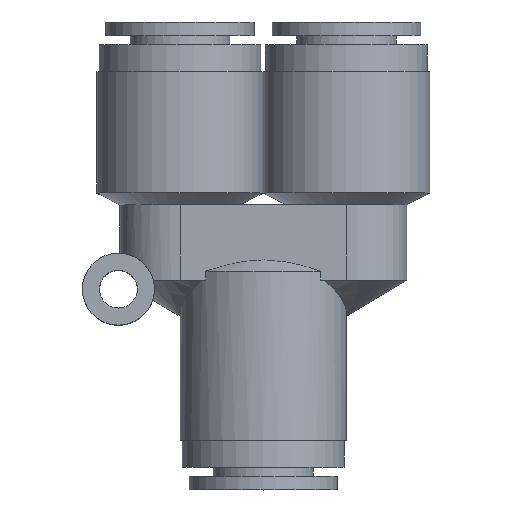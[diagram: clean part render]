
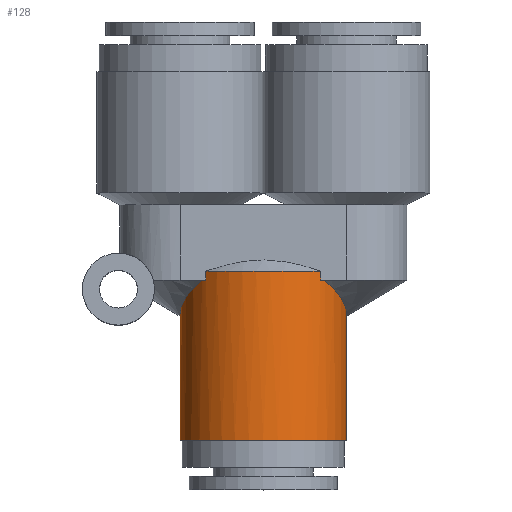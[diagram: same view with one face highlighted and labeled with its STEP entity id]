
A CAD part, top view. The second image highlights one B-rep face of the part: STEP entity #128.
In plain terms, the highlighted cylindrical face has radius 9.25 mm (diameter 18.5 mm), a partial arc.
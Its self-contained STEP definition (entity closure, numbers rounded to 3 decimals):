
#128 = ADVANCED_FACE( '', ( #260 ), #261, .T. );
#260 = FACE_OUTER_BOUND( '', #418, .T. );
#261 = CYLINDRICAL_SURFACE( '', #419, 9.25 );
#418 = EDGE_LOOP( '', ( #854, #855, #856, #857, #858, #859, #860, #861, #862, #863 ) );
#419 = AXIS2_PLACEMENT_3D( '', #864, #865, #866 );
#854 = ORIENTED_EDGE( '', *, *, #1032, .T. );
#855 = ORIENTED_EDGE( '', *, *, #1134, .F. );
#856 = ORIENTED_EDGE( '', *, *, #1039, .T. );
#857 = ORIENTED_EDGE( '', *, *, #1125, .F. );
#858 = ORIENTED_EDGE( '', *, *, #1119, .T. );
#859 = ORIENTED_EDGE( '', *, *, #1112, .T. );
#860 = ORIENTED_EDGE( '', *, *, #1135, .T. );
#861 = ORIENTED_EDGE( '', *, *, #1110, .T. );
#862 = ORIENTED_EDGE( '', *, *, #1117, .T. );
#863 = ORIENTED_EDGE( '', *, *, #1136, .F. );
#864 = CARTESIAN_POINT( '', ( 0., 14.9, 0. ) );
#865 = DIRECTION( '', ( 0., 1., 0. ) );
#866 = DIRECTION( '', ( -1., 0., 0. ) );
#1032 = EDGE_CURVE( '', #1191, #1226, #1227, .T. );
#1039 = EDGE_CURVE( '', #1240, #1238, #1241, .T. );
#1110 = EDGE_CURVE( '', #1359, #1360, #1361, .T. );
#1112 = EDGE_CURVE( '', #1364, #1362, #1365, .T. );
#1117 = EDGE_CURVE( '', #1360, #1370, #1372, .T. );
#1119 = EDGE_CURVE( '', #1373, #1364, #1375, .T. );
#1125 = EDGE_CURVE( '', #1373, #1238, #1381, .T. );
#1134 = EDGE_CURVE( '', #1240, #1226, #1390, .T. );
#1135 = EDGE_CURVE( '', #1362, #1359, #1391, .T. );
#1136 = EDGE_CURVE( '', #1191, #1370, #1392, .T. );
#1191 = VERTEX_POINT( '', #1457 );
#1226 = VERTEX_POINT( '', #1558 );
#1227 = LINE( '', #1559, #1560 );
#1238 = VERTEX_POINT( '', #1573 );
#1240 = VERTEX_POINT( '', #1584 );
#1241 = LINE( '', #1585, #1586 );
#1359 = VERTEX_POINT( '', #1875 );
#1360 = VERTEX_POINT( '', #1876 );
#1361 = LINE( '', #1877, #1878 );
#1362 = VERTEX_POINT( '', #1879 );
#1364 = VERTEX_POINT( '', #1890 );
#1365 = LINE( '', #1891, #1892 );
#1370 = VERTEX_POINT( '', #1900 );
#1372 = CIRCLE( '', #1902, 9.25 );
#1373 = VERTEX_POINT( '', #1903 );
#1375 = CIRCLE( '', #1905, 9.25 );
#1381 = B_SPLINE_CURVE_WITH_KNOTS( '', 3, ( #1922, #1923, #1924, #1925, #1926, #1927, #1928, #1929, #1930, #1931 ), .UNSPECIFIED., .F., .F., ( 4, 2, 2, 2, 4 ), ( 2.045, 2.41, 4.819, 7.229, 9.639 ), .UNSPECIFIED. );
#1390 = CIRCLE( '', #1940, 9.25 );
#1391 = CIRCLE( '', #1941, 9.25 );
#1392 = B_SPLINE_CURVE_WITH_KNOTS( '', 3, ( #1942, #1943, #1944, #1945, #1946, #1947, #1948, #1949, #1950, #1951 ), .UNSPECIFIED., .F., .F., ( 4, 2, 2, 2, 4 ), ( 0., 2.41, 4.819, 7.229, 7.594 ), .UNSPECIFIED. );
#1457 = CARTESIAN_POINT( '', ( -9.25, 19.3, 0. ) );
#1558 = CARTESIAN_POINT( '', ( -9.25, 5.5, 0. ) );
#1559 = CARTESIAN_POINT( '', ( -9.25, 14.9, 0. ) );
#1560 = VECTOR( '', #2037, 1. );
#1573 = CARTESIAN_POINT( '', ( 9.25, 19.3, 0. ) );
#1584 = CARTESIAN_POINT( '', ( 9.25, 5.5, 0. ) );
#1585 = CARTESIAN_POINT( '', ( 9.25, 14.9, 0. ) );
#1586 = VECTOR( '', #2049, 1. );
#1875 = CARTESIAN_POINT( '', ( -6.377, 24.3, 6.7 ) );
#1876 = CARTESIAN_POINT( '', ( -6.377, 23.3, 6.7 ) );
#1877 = CARTESIAN_POINT( '', ( -6.377, 23.8, 6.7 ) );
#1878 = VECTOR( '', #2190, 1. );
#1879 = CARTESIAN_POINT( '', ( 6.377, 24.3, 6.7 ) );
#1890 = CARTESIAN_POINT( '', ( 6.377, 23.3, 6.7 ) );
#1891 = CARTESIAN_POINT( '', ( 6.377, 23.8, 6.7 ) );
#1892 = VECTOR( '', #2191, 1. );
#1900 = CARTESIAN_POINT( '', ( -6.824, 23.3, 6.245 ) );
#1902 = AXIS2_PLACEMENT_3D( '', #2198, #2199, #2200 );
#1903 = CARTESIAN_POINT( '', ( 6.824, 23.3, 6.245 ) );
#1905 = AXIS2_PLACEMENT_3D( '', #2204, #2205, #2206 );
#1922 = CARTESIAN_POINT( '', ( 6.824, 23.3, 6.245 ) );
#1923 = CARTESIAN_POINT( '', ( 6.898, 23.238, 6.164 ) );
#1924 = CARTESIAN_POINT( '', ( 6.971, 23.177, 6.081 ) );
#1925 = CARTESIAN_POINT( '', ( 7.518, 22.704, 5.439 ) );
#1926 = CARTESIAN_POINT( '', ( 7.929, 22.282, 4.819 ) );
#1927 = CARTESIAN_POINT( '', ( 8.591, 21.427, 3.506 ) );
#1928 = CARTESIAN_POINT( '', ( 8.842, 20.995, 2.811 ) );
#1929 = CARTESIAN_POINT( '', ( 9.172, 20.137, 1.403 ) );
#1930 = CARTESIAN_POINT( '', ( 9.25, 19.712, 0.69 ) );
#1931 = CARTESIAN_POINT( '', ( 9.25, 19.3, 0. ) );
#1940 = AXIS2_PLACEMENT_3D( '', #2239, #2240, #2241 );
#1941 = AXIS2_PLACEMENT_3D( '', #2242, #2243, #2244 );
#1942 = CARTESIAN_POINT( '', ( -9.25, 19.3, 0. ) );
#1943 = CARTESIAN_POINT( '', ( -9.25, 19.712, 0.69 ) );
#1944 = CARTESIAN_POINT( '', ( -9.172, 20.137, 1.403 ) );
#1945 = CARTESIAN_POINT( '', ( -8.842, 20.995, 2.811 ) );
#1946 = CARTESIAN_POINT( '', ( -8.591, 21.427, 3.506 ) );
#1947 = CARTESIAN_POINT( '', ( -7.929, 22.282, 4.819 ) );
#1948 = CARTESIAN_POINT( '', ( -7.518, 22.704, 5.439 ) );
#1949 = CARTESIAN_POINT( '', ( -6.971, 23.177, 6.081 ) );
#1950 = CARTESIAN_POINT( '', ( -6.898, 23.238, 6.164 ) );
#1951 = CARTESIAN_POINT( '', ( -6.824, 23.3, 6.245 ) );
#2037 = DIRECTION( '', ( 0., -1., 0. ) );
#2049 = DIRECTION( '', ( 0., 1., 0. ) );
#2190 = DIRECTION( '', ( 0., -1., 0. ) );
#2191 = DIRECTION( '', ( 0., 1., 0. ) );
#2198 = CARTESIAN_POINT( '', ( 0., 23.3, 0. ) );
#2199 = DIRECTION( '', ( 0., -1., 0. ) );
#2200 = DIRECTION( '', ( -1., 0., 0. ) );
#2204 = CARTESIAN_POINT( '', ( 0., 23.3, 0. ) );
#2205 = DIRECTION( '', ( 0., -1., 0. ) );
#2206 = DIRECTION( '', ( -1., 0., 0. ) );
#2239 = CARTESIAN_POINT( '', ( 0., 5.5, 0. ) );
#2240 = DIRECTION( '', ( 0., -1., 0. ) );
#2241 = DIRECTION( '', ( -1., 0., 0. ) );
#2242 = CARTESIAN_POINT( '', ( 0., 24.3, 0. ) );
#2243 = DIRECTION( '', ( 0., -1., 0. ) );
#2244 = DIRECTION( '', ( -1., 0., 0. ) );
